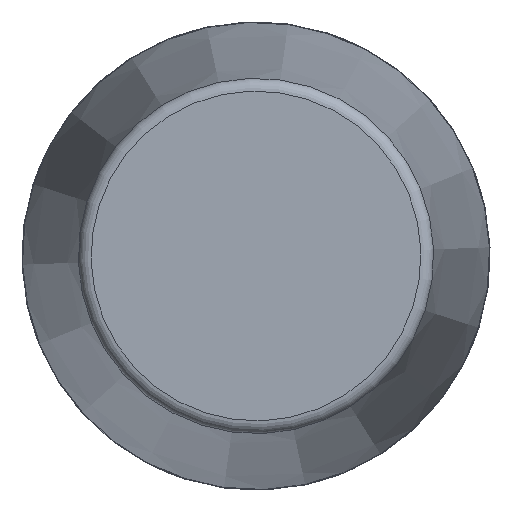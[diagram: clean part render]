
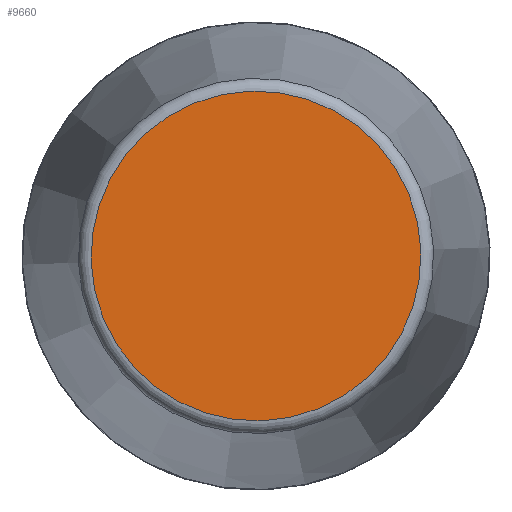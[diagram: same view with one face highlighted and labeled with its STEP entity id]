
A CAD part, front view. The second image highlights one B-rep face of the part: STEP entity #9660.
In plain terms, the highlighted planar face has unit normal (0, -1, 0) as drawn and (1, 0, 0) by its records, which use the part's own axes.
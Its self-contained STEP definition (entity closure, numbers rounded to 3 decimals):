
#237=PLANE('',#9983);
#3297=FACE_OUTER_BOUND('',#3890,.T.);
#3890=EDGE_LOOP('',(#9118));
#3915=CIRCLE('',#9979,38.74);
#4871=VERTEX_POINT('',#18527);
#6287=EDGE_CURVE('',#4871,#4871,#3915,.T.);
#9118=ORIENTED_EDGE('',*,*,#6287,.F.);
#9660=ADVANCED_FACE('',(#3297),#237,.T.);
#9979=AXIS2_PLACEMENT_3D('',#18528,#11242,#11243);
#9983=AXIS2_PLACEMENT_3D('',#18534,#11250,#11251);
#11242=DIRECTION('center_axis',(-1.,0.,0.));
#11243=DIRECTION('ref_axis',(0.,0.,
1.));
#11250=DIRECTION('center_axis',(1.,0.,0.));
#11251=DIRECTION('ref_axis',(0.,0.,-1.));
#18527=CARTESIAN_POINT('',(200.5,0.,-38.74));
#18528=CARTESIAN_POINT('Origin',(200.5,0.,0.));
#18534=CARTESIAN_POINT('Origin',(200.5,0.,0.));
